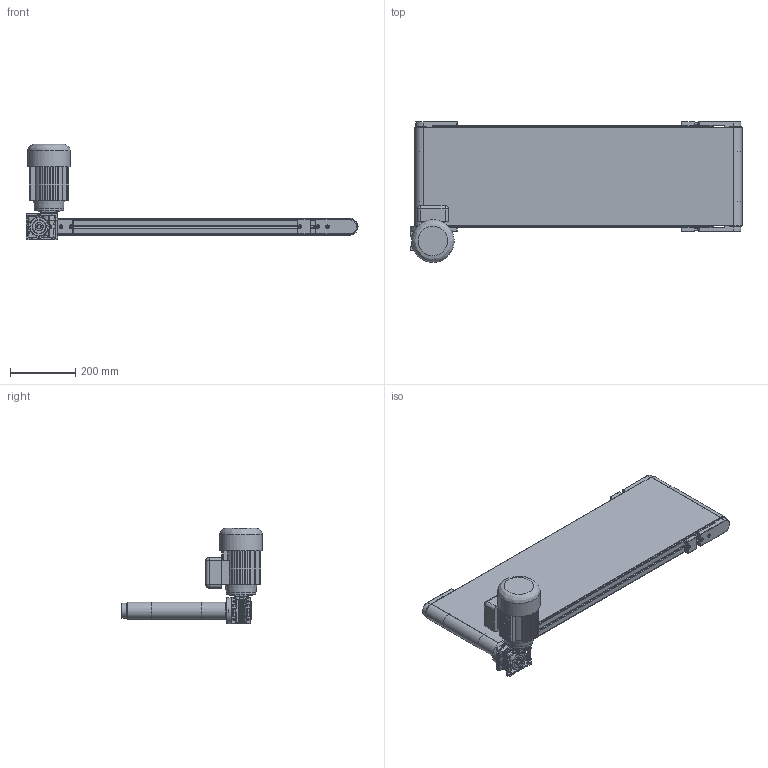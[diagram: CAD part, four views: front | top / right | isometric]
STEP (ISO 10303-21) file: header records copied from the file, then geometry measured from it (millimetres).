
FILE_DESCRIPTION (( 'STEP AP214' ), '1' );
FILE_NAME ('TB52 300X1000 DIRECT A DROITE.STEP', '2022-10-10T13:07:25', ( '' ), ( '' ), 'SwSTEP 2.0', 'SolidWorks 2022', '' );
FILE_SCHEMA (( 'AUTOMOTIVE_DESIGN' ));
Length unit declared in the file: millimetre
Products named in the file (20): TH_910-229; 980-000; 982-003; CHC THE_910-065H; CLAVETTE_910-165; 982-016; TB52 300X1000 DIRECT A DROITE; 982-011; TH_910-167; 983-002; 910-010; 982-001B_982-001B-300; CHC THE_910-064H; 982-008; 982-002; 982-012-180W; 982-000; 983-000; 983-001; CHASSIS TB52 600X1000_Défaut<Brut d''usinage>
Assembly tree (36 placements, depth 3):
  TB52 300X1000 DIRECT A DROITE
    CHASSIS TB52 600X1000_Défaut<Brut d''usinage>
    983-000
      982-016
      980-000
      982-002
      CHC THE_910-065H  x2
      910-010  x2
      CLAVETTE_910-165
      CHC THE_910-064H  x3
    983-002  x2
      982-008
      TH_910-167
      CHC THE_910-065H
      910-010
    983-001  x3
      982-000
      982-003
      CHC THE_910-065H
      910-010
    982-011
    TH_910-229  x4
    982-012-180W
    982-001B_982-001B-300  x2
Bounding box: 1014 x 430 x 292 mm (x, y, z)
Volume: 8564795.7 mm3; surface area: 3168386.8 mm2
Topology: 52 solids, 57 shells, 1963 faces, 4900 edges, 3174 vertices
Faces by surface type: plane 1275, cylinder 321, cone 297, torus 65, bspline 5
Full cylindrical faces by diameter (mm): 3.242 x1, 4.2 x8, 5 x16, 5.98 x13, 6 x15, 6.5 x13, 7 x4, 7.3 x5, 8 x2, 10 x13, 11 x14, 14 x1, 15 x7, 16 x1, 20 x4, 21 x6, 24 x4, 25 x2, 26 x2, 29 x6, 30 x2, 31 x3, 35 x8, 36 x2, 37 x1, 42 x2, 45 x1, 49 x2, 55 x2, 56 x1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
Entity records: 42594 total; most frequent: CARTESIAN_POINT 8785, ORIENTED_EDGE 6642, DIRECTION 6253, EDGE_CURVE 3321, VECTOR 2341, LINE 2341, VERTEX_POINT 2255, AXIS2_PLACEMENT_3D 1956
